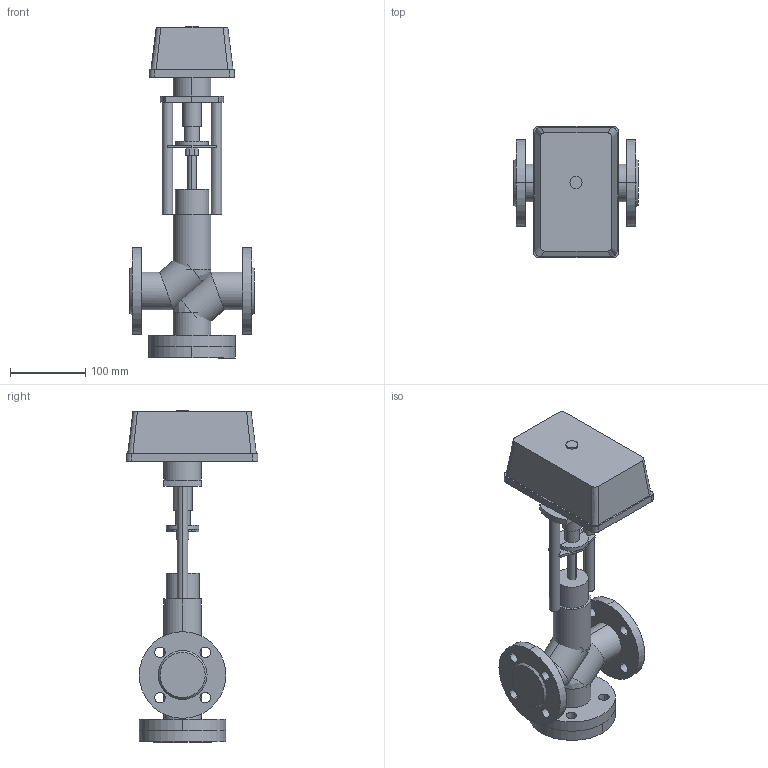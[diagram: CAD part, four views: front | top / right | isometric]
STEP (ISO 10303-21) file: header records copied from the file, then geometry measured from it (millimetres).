
FILE_DESCRIPTION(/* description */ (''),/* implementation_level */ '2;1');
FILE_NAME(/* name */ 'ТРК DN25 PN 2.5 МПа МИЭП-1 1600',/* time_stamp */ '2026-07-14T23:28:23+03:00',/* author */ (''),/* organization */ (''),/* preprocessor_version */ 'ST-DEVELOPER v20',/* originating_system */ '',/* authorisation */ '');
FILE_SCHEMA (('AP242_MANAGED_MODEL_BASED_3D_ENGINEERING_MIM_LF { 1 0 10303 442 1 1 4 }'));
Length unit declared in the file: millimetre
Products named in the file (14): TopLevelAssembly; Выдавливание; Модификатор; Модификатор_1; Выдавливание_
1; Выдавливание_
2; Вращение; Выдавливание_
3; Выдавливание_
4; 1600; Переход; Объемная геометрия 
присоединена; Полый Выдавливание; Объемная геометрия 
присоединена_1
Assembly tree (13 placements, depth 2):
  TopLevelAssembly
    Выдавливание
    Модификатор
    Модификатор_1
    Выдавливание_
1
    Выдавливание_
2
    Вращение
    Выдавливание_
3
    Выдавливание_
4
    1600
    Переход
    Объемная геометрия 
присоединена
    Полый Выдавливание
    Объемная геометрия 
присоединена_1
Bounding box: 165 x 175 x 441 mm (x, y, z)
Volume: 2548886.8 mm3; surface area: 355056.9 mm2
Topology: 23 solids, 23 shells, 171 faces, 357 edges, 226 vertices
Faces by surface type: cylinder 80, plane 79, bspline 8, cone 4
Entity records: 5215 total; most frequent: CARTESIAN_POINT 961, DIRECTION 909, ORIENTED_EDGE 698, AXIS2_PLACEMENT_3D 370, EDGE_CURVE 349, VERTEX_POINT 226, EDGE_LOOP 201, CIRCLE 172
